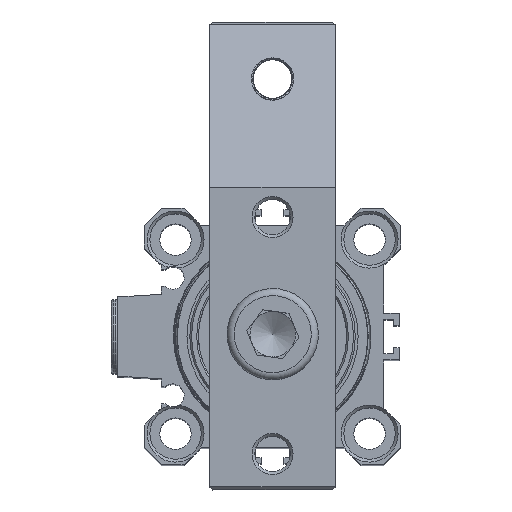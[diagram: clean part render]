
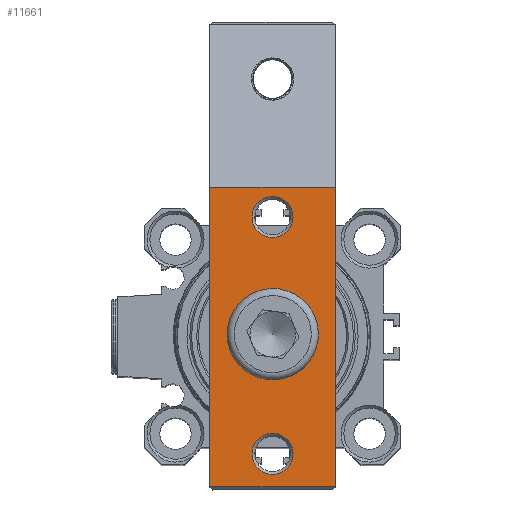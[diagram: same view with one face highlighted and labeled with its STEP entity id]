
A CAD part, top view. The second image highlights one B-rep face of the part: STEP entity #11661.
In plain terms, the highlighted planar face has unit normal (0, 0, 1) as drawn and (0, 1, 0) by its records, which use the part's own axes.
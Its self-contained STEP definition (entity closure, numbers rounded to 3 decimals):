
#357=PLANE('',#12964);
#456=FACE_BOUND('',#1794,.T.);
#457=FACE_BOUND('',#1795,.T.);
#458=FACE_BOUND('',#1796,.T.);
#1109=FACE_OUTER_BOUND('',#1793,.T.);
#1793=EDGE_LOOP('',(#9918,#9919,#9920,#9921));
#1794=EDGE_LOOP('',(#9922,#9923));
#1795=EDGE_LOOP('',(#9924,#9925));
#1796=EDGE_LOOP('',(#9926,#9927));
#2439=CIRCLE('',#12926,5.75);
#2440=CIRCLE('',#12927,5.75);
#2443=CIRCLE('',#12931,3.6);
#2444=CIRCLE('',#12932,3.6);
#2447=CIRCLE('',#12936,3.6);
#2448=CIRCLE('',#12937,3.6);
#3541=LINE('',#34159,#4202);
#3542=LINE('',#34161,#4203);
#3543=LINE('',#34163,#4204);
#3544=LINE('',#34164,#4205);
#4202=VECTOR('',#15756,1000.);
#4203=VECTOR('',#15757,1000.);
#4204=VECTOR('',#15758,1000.);
#4205=VECTOR('',#15759,1000.);
#5270=VERTEX_POINT('',#33300);
#5271=VERTEX_POINT('',#33302);
#5274=VERTEX_POINT('',#33310);
#5275=VERTEX_POINT('',#33312);
#5278=VERTEX_POINT('',#33320);
#5279=VERTEX_POINT('',#33322);
#5329=VERTEX_POINT('',#34157);
#5330=VERTEX_POINT('',#34158);
#5331=VERTEX_POINT('',#34160);
#5332=VERTEX_POINT('',#34162);
#6889=EDGE_CURVE('',#5271,#5270,#2439,.T.);
#6890=EDGE_CURVE('',#5270,#5271,#2440,.T.);
#6894=EDGE_CURVE('',#5275,#5274,#2443,.T.);
#6895=EDGE_CURVE('',#5274,#5275,#2444,.T.);
#6899=EDGE_CURVE('',#5279,#5278,#2447,.T.);
#6900=EDGE_CURVE('',#5278,#5279,#2448,.T.);
#6970=EDGE_CURVE('',#5329,#5330,#3541,.T.);
#6971=EDGE_CURVE('',#5329,#5331,#3542,.T.);
#6972=EDGE_CURVE('',#5331,#5332,#3543,.T.);
#6973=EDGE_CURVE('',#5330,#5332,#3544,.T.);
#9918=ORIENTED_EDGE('',*,*,#6970,.F.);
#9919=ORIENTED_EDGE('',*,*,#6971,.T.);
#9920=ORIENTED_EDGE('',*,*,#6972,.T.);
#9921=ORIENTED_EDGE('',*,*,#6973,.F.);
#9922=ORIENTED_EDGE('',*,*,#6889,.T.);
#9923=ORIENTED_EDGE('',*,*,#6890,.T.);
#9924=ORIENTED_EDGE('',*,*,#6899,.T.);
#9925=ORIENTED_EDGE('',*,*,#6900,.T.);
#9926=ORIENTED_EDGE('',*,*,#6894,.T.);
#9927=ORIENTED_EDGE('',*,*,#6895,.T.);
#11661=ADVANCED_FACE('',(#1109,#456,#457,#458),#357,.F.);
#12926=AXIS2_PLACEMENT_3D('',#33303,#15665,#15666);
#12927=AXIS2_PLACEMENT_3D('',#33304,#15667,#15668);
#12931=AXIS2_PLACEMENT_3D('',#33313,#15676,#15677);
#12932=AXIS2_PLACEMENT_3D('',#33314,#15678,#15679);
#12936=AXIS2_PLACEMENT_3D('',#33323,#15687,#15688);
#12937=AXIS2_PLACEMENT_3D('',#33324,#15689,#15690);
#12964=AXIS2_PLACEMENT_3D('',#34156,#15754,#15755);
#15665=DIRECTION('center_axis',(0.,-1.,0.));
#15666=DIRECTION('ref_axis',(0.,0.,-1.));
#15667=DIRECTION('center_axis',(0.,-1.,0.));
#15668=DIRECTION('ref_axis',(0.,0.,-1.));
#15676=DIRECTION('center_axis',(0.,-1.,0.));
#15677=DIRECTION('ref_axis',(0.,0.,-1.));
#15678=DIRECTION('center_axis',(0.,-1.,0.));
#15679=DIRECTION('ref_axis',(0.,0.,-1.));
#15687=DIRECTION('center_axis',(0.,-1.,0.));
#15688=DIRECTION('ref_axis',(0.,0.,-1.));
#15689=DIRECTION('center_axis',(0.,-1.,0.));
#15690=DIRECTION('ref_axis',(0.,0.,-1.));
#15754=DIRECTION('center_axis',(0.,-1.,0.));
#15755=DIRECTION('ref_axis',(0.,0.,-1.));
#15756=DIRECTION('',(-1.,0.,0.));
#15757=DIRECTION('',(0.,0.,-1.));
#15758=DIRECTION('',(-1.,0.,0.));
#15759=DIRECTION('',(0.,0.,-1.));
#33300=CARTESIAN_POINT('',(77.052,108.154,5.25));
#33302=CARTESIAN_POINT('',(77.052,108.154,16.75));
#33303=CARTESIAN_POINT('Origin',(77.052,108.154,11.));
#33304=CARTESIAN_POINT('Origin',(77.052,108.154,11.));
#33310=CARTESIAN_POINT('',(56.252,108.154,7.4));
#33312=CARTESIAN_POINT('',(56.252,108.154,14.6));
#33313=CARTESIAN_POINT('Origin',(56.252,108.154,11.));
#33314=CARTESIAN_POINT('Origin',(56.252,108.154,11.));
#33320=CARTESIAN_POINT('',(97.752,108.154,7.4));
#33322=CARTESIAN_POINT('',(97.752,108.154,14.6));
#33323=CARTESIAN_POINT('Origin',(97.752,108.154,11.));
#33324=CARTESIAN_POINT('Origin',(97.752,108.154,11.));
#34156=CARTESIAN_POINT('Origin',(104.052,108.154,22.));
#34157=CARTESIAN_POINT('',(103.552,108.154,22.));
#34158=CARTESIAN_POINT('',(51.052,108.154,22.));
#34159=CARTESIAN_POINT('',(104.052,108.154,22.));
#34160=CARTESIAN_POINT('',(103.552,108.154,0.));
#34161=CARTESIAN_POINT('',(103.552,108.154,22.));
#34162=CARTESIAN_POINT('',(51.052,108.154,0.));
#34163=CARTESIAN_POINT('',(104.052,108.154,0.));
#34164=CARTESIAN_POINT('',(51.052,108.154,22.));
